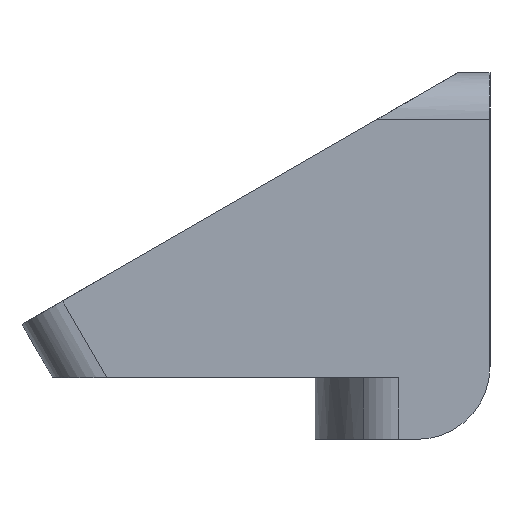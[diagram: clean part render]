
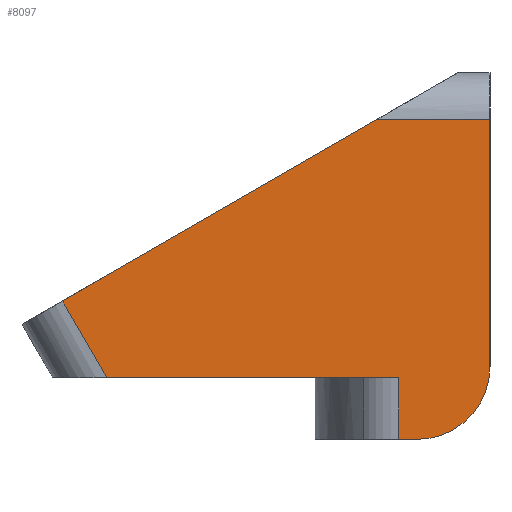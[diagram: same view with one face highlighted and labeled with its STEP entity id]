
A CAD part, left-side view. The second image highlights one B-rep face of the part: STEP entity #8097.
In plain terms, the highlighted planar face has unit normal (-1, 0, 0).
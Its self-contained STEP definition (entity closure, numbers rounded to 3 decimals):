
#9 = CARTESIAN_POINT ( 'NONE',  ( -9.694, -8.75, -10.52 ) ) ;
#67 = VECTOR ( 'NONE', #10112, 1000. ) ;
#393 = VERTEX_POINT ( 'NONE', #3911 ) ;
#570 = AXIS2_PLACEMENT_3D ( 'NONE', #3295, #2309, #12376 ) ;
#573 = VECTOR ( 'NONE', #10153, 1000. ) ;
#1199 = ORIENTED_EDGE ( 'NONE', *, *, #3272, .T. ) ;
#1232 = CARTESIAN_POINT ( 'NONE',  ( -9.694, 0.83, -10.52 ) ) ;
#1308 = CARTESIAN_POINT ( 'NONE',  ( -9.694, 0., -10.52 ) ) ;
#1593 = EDGE_CURVE ( 'NONE', #3096, #393, #5388, .T. ) ;
#1617 = VERTEX_POINT ( 'NONE', #11560 ) ;
#2107 = CARTESIAN_POINT ( 'NONE',  ( -9.694, -8.75, -3.941 ) ) ;
#2309 = DIRECTION ( 'NONE',  ( -1., 0., 0. ) ) ;
#2434 = DIRECTION ( 'NONE',  ( 0., -1., 0. ) ) ;
#2837 = CARTESIAN_POINT ( 'NONE',  ( -9.694, -8.93, -1.182 ) ) ;
#2868 = LINE ( 'NONE', #5750, #6919 ) ;
#3096 = VERTEX_POINT ( 'NONE', #5099 ) ;
#3150 = ORIENTED_EDGE ( 'NONE', *, *, #8945, .T. ) ;
#3272 = EDGE_CURVE ( 'NONE', #393, #7254, #3667, .T. ) ;
#3295 = CARTESIAN_POINT ( 'NONE',  ( -9.694, -1.18, -2.77 ) ) ;
#3359 = CARTESIAN_POINT ( 'NONE',  ( -9.694, 9.009, 20.239 ) ) ;
#3409 = PLANE ( 'NONE',  #4174 ) ;
#3667 = CIRCLE ( 'NONE', #570, 7.75 ) ;
#3911 = CARTESIAN_POINT ( 'NONE',  ( -9.694, -1.18, -10.52 ) ) ;
#4008 = VECTOR ( 'NONE', #11030, 1000. ) ;
#4032 = LINE ( 'NONE', #2837, #13936 ) ;
#4055 = VERTEX_POINT ( 'NONE', #5804 ) ;
#4135 = CARTESIAN_POINT ( 'NONE',  ( -9.694, 33.42, -1.441 ) ) ;
#4140 = ORIENTED_EDGE ( 'NONE', *, *, #9157, .T. ) ;
#4174 = AXIS2_PLACEMENT_3D ( 'NONE', #9, #7845, #7895 ) ;
#4672 = EDGE_CURVE ( 'NONE', #4055, #7254, #4032, .T. ) ;
#4750 = CARTESIAN_POINT ( 'NONE',  ( -9.694, -8.93, -2.77 ) ) ;
#5093 = ORIENTED_EDGE ( 'NONE', *, *, #1593, .T. ) ;
#5095 = ORIENTED_EDGE ( 'NONE', *, *, #8086, .F. ) ;
#5099 = CARTESIAN_POINT ( 'NONE',  ( -9.694, 0.83, -10.52 ) ) ;
#5205 = CARTESIAN_POINT ( 'NONE',  ( -9.694, 0.83, -3.941 ) ) ;
#5388 = LINE ( 'NONE', #1308, #9469 ) ;
#5750 = CARTESIAN_POINT ( 'NONE',  ( -9.694, -5.51, 23.621 ) ) ;
#5804 = CARTESIAN_POINT ( 'NONE',  ( -9.694, -8.93, 23.621 ) ) ;
#5917 = LINE ( 'NONE', #2107, #4008 ) ;
#6103 = EDGE_CURVE ( 'NONE', #6990, #1617, #5917, .T. ) ;
#6564 = VECTOR ( 'NONE', #12168, 1000. ) ;
#6617 = VERTEX_POINT ( 'NONE', #10113 ) ;
#6919 = VECTOR ( 'NONE', #8027, 1000. ) ;
#6990 = VERTEX_POINT ( 'NONE', #5205 ) ;
#7254 = VERTEX_POINT ( 'NONE', #4750 ) ;
#7692 = ORIENTED_EDGE ( 'NONE', *, *, #12575, .T. ) ;
#7845 = DIRECTION ( 'NONE',  ( -1., 0., 0. ) ) ;
#7895 = DIRECTION ( 'NONE',  ( 0., 0., 1. ) ) ;
#8027 = DIRECTION ( 'NONE',  ( 0., 1., 0. ) ) ;
#8086 = EDGE_CURVE ( 'NONE', #8203, #6617, #9942, .T. ) ;
#8097 = ADVANCED_FACE ( 'NONE', ( #11709 ), #3409, .T. ) ;
#8203 = VERTEX_POINT ( 'NONE', #13545 ) ;
#8945 = EDGE_CURVE ( 'NONE', #4055, #6617, #2868, .T. ) ;
#9157 = EDGE_CURVE ( 'NONE', #8203, #1617, #13840, .T. ) ;
#9323 = EDGE_LOOP ( 'NONE', ( #12815, #7692, #5093, #1199, #9770, #3150, #5095, #4140 ) ) ;
#9469 = VECTOR ( 'NONE', #2434, 1000. ) ;
#9596 = DIRECTION ( 'NONE',  ( 0., 0., -1. ) ) ;
#9770 = ORIENTED_EDGE ( 'NONE', *, *, #4672, .F. ) ;
#9942 = LINE ( 'NONE', #3359, #67 ) ;
#10112 = DIRECTION ( 'NONE',  ( 0., -0.866, 0.5 ) ) ;
#10113 = CARTESIAN_POINT ( 'NONE',  ( -9.694, 3.15, 23.621 ) ) ;
#10153 = DIRECTION ( 'NONE',  ( 0., 0., -1. ) ) ;
#11030 = DIRECTION ( 'NONE',  ( 0., 1., 0. ) ) ;
#11173 = LINE ( 'NONE', #1232, #573 ) ;
#11560 = CARTESIAN_POINT ( 'NONE',  ( -9.694, 31.977, -3.941 ) ) ;
#11709 = FACE_OUTER_BOUND ( 'NONE', #9323, .T. ) ;
#12168 = DIRECTION ( 'NONE',  ( 0., -0.5, -0.866 ) ) ;
#12376 = DIRECTION ( 'NONE',  ( 0., 0., 1. ) ) ;
#12575 = EDGE_CURVE ( 'NONE', #6990, #3096, #11173, .T. ) ;
#12815 = ORIENTED_EDGE ( 'NONE', *, *, #6103, .F. ) ;
#13545 = CARTESIAN_POINT ( 'NONE',  ( -9.694, 36.705, 4.248 ) ) ;
#13840 = LINE ( 'NONE', #4135, #6564 ) ;
#13936 = VECTOR ( 'NONE', #9596, 1000. ) ;
